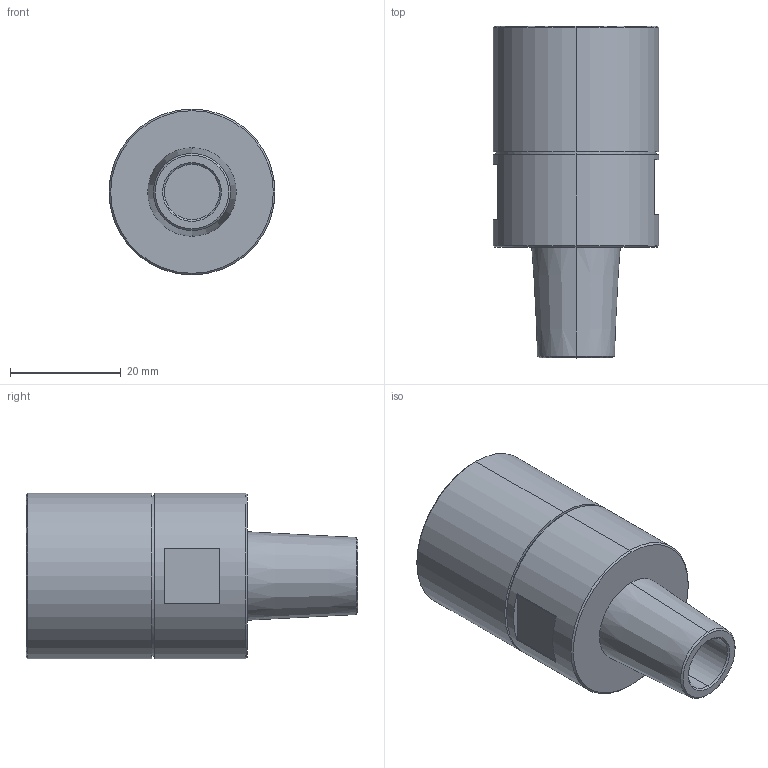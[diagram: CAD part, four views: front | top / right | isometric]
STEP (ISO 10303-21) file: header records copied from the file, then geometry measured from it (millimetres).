
FILE_DESCRIPTION (( 'STEP AP203' ), '1' );
FILE_NAME ('SW-PB-D12-1.STEP', '2022-06-14T04:34:49', ( '' ), ( '' ), 'SwSTEP 2.0', 'SolidWorks 2015', '' );
FILE_SCHEMA (( 'CONFIG_CONTROL_DESIGN' ));
Length unit declared in the file: millimetre
Products named in the file (2): SW-PB-D12-1
Bounding box: 30 x 60 x 30 mm (x, y, z)
Volume: 28707.2 mm3; surface area: 7313.1 mm2
Topology: 1 solids, 1 shells, 34 faces, 70 edges, 44 vertices
Faces by surface type: plane 16, cone 10, cylinder 8
Entity records: 1145 total; most frequent: CARTESIAN_POINT 250, DIRECTION 166, ORIENTED_EDGE 140, EDGE_CURVE 70, AXIS2_PLACEMENT_3D 64, VERTEX_POINT 44, EDGE_LOOP 40, LINE 38
